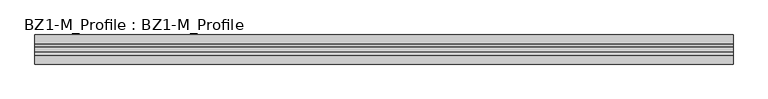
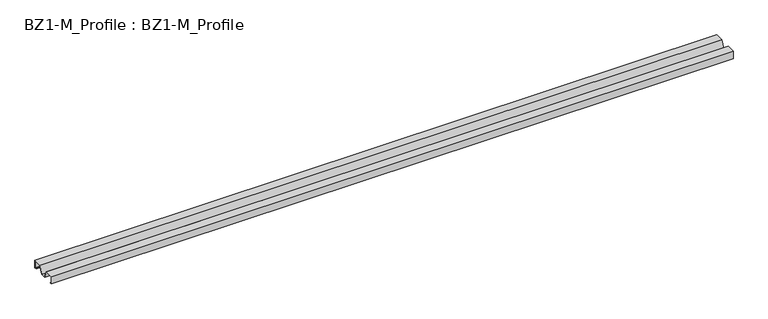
"""IFC4 building model written with IfcOpenShell, lengths in millimetres: beam geometry, BZ1-M_Profile : BZ1-M_Profile."""

from ifc_helpers import new_model, si_unit, frame, origin, place, context, project, spatial, polyline, outline, extrude, source, transform, mapped, element, save


def bz1_m_profile_bz1_m_profile_18d72951(model_context):
    return source(origin(), model_context, "Body", "SweptSolid", [
        extrude(outline(polyline([(45.0, 25.0), (45.0, 0.0), (39.0, 0.0), (39.0, 1.0), (44.0, 1.0), (44.0, 24.0), (18.3051526, 24.0), (8.117757, 0.0), (-8.117757, 0.0), (-18.3051526, 24.0), (-44.0, 24.0), (-44.0, 1.0), (-39.0, 1.0), (-39.0, 0.0), (-45.0, 0.0), (-45.0, 25.0), (-17.643267, 25.0), (-7.4558714, 1.0), (7.4558714, 1.0), (17.643267, 25.0), (45.0, 25.0)])), frame((-1077.0946222, 0.0, 0.0), z_axis=(1.0, 0.0, 0.0), x_axis=(0.0, 1.0, 0.0)), (0.0, 0.0, 1.0), 2154.1892444),
    ])


if __name__ == "__main__":
    model = new_model("IFC4")
    model_context = context("Model", 3, world=origin())
    ifc_project = project(units=[si_unit("LENGTHUNIT", "METRE", prefix="MILLI")], contexts=[model_context])
    site = spatial("IfcSite", under=ifc_project)
    building = spatial("IfcBuilding", under=site)
    placement = place(None, origin())
    bz1_m_profile_bz1_m_profile_shape = bz1_m_profile_bz1_m_profile_18d72951(model_context)
    element("IfcBeam", 1, ObjectType="BZ1-M_Profile : BZ1-M_Profile", at=placement, inside=building, context=model_context, shape_type="MappedRepresentation", body=[
        mapped(bz1_m_profile_bz1_m_profile_shape, transform((0.0, 0.0, 0.0), x_axis=(1.0, 0.0, 0.0), y_axis=(0.0, 1.0, 0.0), z_axis=(0.0, 0.0, 1.0))),
    ])
    save(model, "model.ifc")
